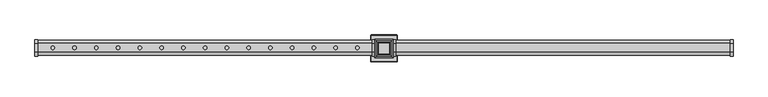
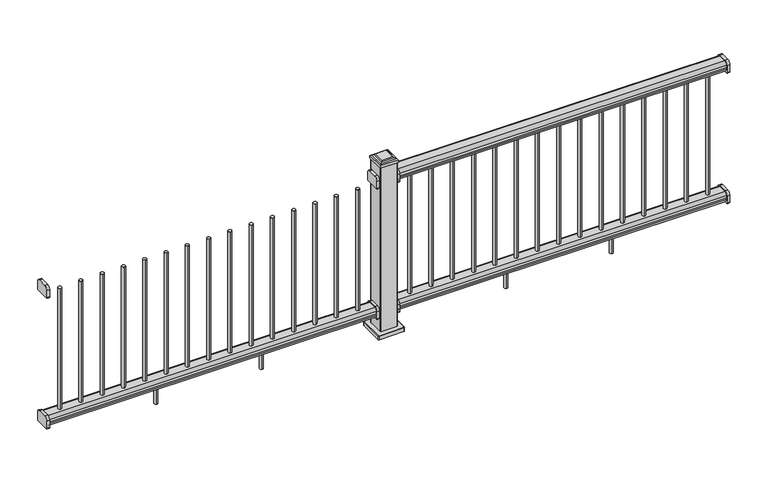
"""IFC4 building model written with IfcOpenShell, lengths in millimetres: railing geometry, NewTechWood - Westminister Gray."""

from ifc_helpers import new_model, si_unit, point, frame, frame_2d, origin, place, context, project, spatial, polyline, circle_curve, ellipse_curve, trimmed, segment, composite_curve, outline, extrude, faceted_brep, source, transform, mapped, element, save
from ifc_brep_helpers import plane_surface, cylinder_surface, revolved_surface, advanced_brep


def railing_2c4e6d6a(model_context):
    return source(origin(), model_context, "Body", "SolidModel", [
        extrude(outline(composite_curve([segment(polyline([(11496.7392028, 160.1), (11546.1692028, 160.1)]), True, "CONTINUOUS"), segment(trimmed(circle_curve(frame_2d((11546.1692028, 140.42)), 19.68), [point((11546.1692028, 160.1))], [point((11565.8492028, 140.42))], False, "CARTESIAN"), True, "CONTINUOUS"), segment(polyline([(11565.8492028, 140.42), (11565.8492028, 98.95)]), True, "CONTINUOUS"), segment(trimmed(circle_curve(frame_2d((11562.2992028, 98.95)), 3.55), [point((11565.8492028, 98.95))], [point((11562.2992028, 95.4))], False, "CARTESIAN"), True, "CONTINUOUS"), segment(polyline([(11562.2992028, 95.4), (11480.6092028, 95.4)]), True, "CONTINUOUS"), segment(trimmed(circle_curve(frame_2d((11480.6092028, 98.95)), 3.55), [point((11480.6092028, 95.4))], [point((11477.0592028, 98.95))], False, "CARTESIAN"), True, "CONTINUOUS"), segment(polyline([(11477.0592028, 98.95), (11477.0592028, 140.42)]), True, "CONTINUOUS"), segment(trimmed(circle_curve(frame_2d((11496.7392028, 140.42)), 19.68), [point((11477.0592028, 140.42))], [point((11496.7392028, 160.1))], False, "CARTESIAN"), True, "CONTINUOUS")], self_intersect=False)), frame((2823.1458255, 0.0, 0.0), z_axis=(1.0, 0.0, 0.0), x_axis=(0.0, 1.0, 0.0)), (0.0, 0.0, 1.0), 15.0),
        extrude(outline(composite_curve([segment(polyline([(11496.7392028, 160.1), (11546.1692028, 160.1)]), True, "CONTINUOUS"), segment(trimmed(circle_curve(frame_2d((11546.1692028, 140.42)), 19.68), [point((11546.1692028, 160.1))], [point((11565.8492028, 140.42))], False, "CARTESIAN"), True, "CONTINUOUS"), segment(polyline([(11565.8492028, 140.42), (11565.8492028, 98.95)]), True, "CONTINUOUS"), segment(trimmed(circle_curve(frame_2d((11562.2992028, 98.95)), 3.55), [point((11565.8492028, 98.95))], [point((11562.2992028, 95.4))], False, "CARTESIAN"), True, "CONTINUOUS"), segment(polyline([(11562.2992028, 95.4), (11480.6092028, 95.4)]), True, "CONTINUOUS"), segment(trimmed(circle_curve(frame_2d((11480.6092028, 98.95)), 3.55), [point((11480.6092028, 95.4))], [point((11477.0592028, 98.95))], False, "CARTESIAN"), True, "CONTINUOUS"), segment(polyline([(11477.0592028, 98.95), (11477.0592028, 140.42)]), True, "CONTINUOUS"), segment(trimmed(circle_curve(frame_2d((11496.7392028, 140.42)), 19.68), [point((11477.0592028, 140.42))], [point((11496.7392028, 160.1))], False, "CARTESIAN"), True, "CONTINUOUS")], self_intersect=False)), frame((4637.1458255, 0.0, 0.0), z_axis=(1.0, 0.0, 0.0), x_axis=(0.0, 1.0, 0.0)), (0.0, 0.0, 1.0), 15.0),
        extrude(outline(composite_curve([segment(trimmed(circle_curve(frame_2d((11546.1692028, 899.42)), 19.68), [point((11546.1692028, 919.1))], [point((11565.8492028, 899.42))], False, "CARTESIAN"), True, "CONTINUOUS"), segment(polyline([(11565.8492028, 899.42), (11565.8492028, 857.95)]), True, "CONTINUOUS"), segment(trimmed(circle_curve(frame_2d((11562.2992028, 857.95)), 3.55), [point((11565.8492028, 857.95))], [point((11562.2992028, 854.4))], False, "CARTESIAN"), True, "CONTINUOUS"), segment(polyline([(11562.2992028, 854.4), (11480.6092028, 854.4)]), True, "CONTINUOUS"), segment(trimmed(circle_curve(frame_2d((11480.6092028, 857.95)), 3.55), [point((11480.6092028, 854.4))], [point((11477.0592028, 857.95))], False, "CARTESIAN"), True, "CONTINUOUS"), segment(polyline([(11477.0592028, 857.95), (11477.0592028, 899.42)]), True, "CONTINUOUS"), segment(trimmed(circle_curve(frame_2d((11496.7392028, 899.42)), 19.68), [point((11477.0592028, 899.42))], [point((11496.7392028, 919.1))], False, "CARTESIAN"), True, "CONTINUOUS"), segment(polyline([(11496.7392028, 919.1), (11546.1692028, 919.1)]), True, "CONTINUOUS")], self_intersect=False)), frame((2823.1458255, 0.0, 0.0), z_axis=(1.0, 0.0, 0.0), x_axis=(0.0, 1.0, 0.0)), (0.0, 0.0, 1.0), 15.0),
        extrude(outline(composite_curve([segment(trimmed(circle_curve(frame_2d((11546.1692028, 899.42)), 19.68), [point((11546.1692028, 919.1))], [point((11565.8492028, 899.42))], False, "CARTESIAN"), True, "CONTINUOUS"), segment(polyline([(11565.8492028, 899.42), (11565.8492028, 857.95)]), True, "CONTINUOUS"), segment(trimmed(circle_curve(frame_2d((11562.2992028, 857.95)), 3.55), [point((11565.8492028, 857.95))], [point((11562.2992028, 854.4))], False, "CARTESIAN"), True, "CONTINUOUS"), segment(polyline([(11562.2992028, 854.4), (11480.6092028, 854.4)]), True, "CONTINUOUS"), segment(trimmed(circle_curve(frame_2d((11480.6092028, 857.95)), 3.55), [point((11480.6092028, 854.4))], [point((11477.0592028, 857.95))], False, "CARTESIAN"), True, "CONTINUOUS"), segment(polyline([(11477.0592028, 857.95), (11477.0592028, 899.42)]), True, "CONTINUOUS"), segment(trimmed(circle_curve(frame_2d((11496.7392028, 899.42)), 19.68), [point((11477.0592028, 899.42))], [point((11496.7392028, 919.1))], False, "CARTESIAN"), True, "CONTINUOUS"), segment(polyline([(11496.7392028, 919.1), (11546.1692028, 919.1)]), True, "CONTINUOUS")], self_intersect=False)), frame((4637.1458255, 0.0, 0.0), z_axis=(1.0, 0.0, 0.0), x_axis=(0.0, 1.0, 0.0)), (0.0, 0.0, 1.0), 15.0),
        advanced_brep(
        [(3448.145858, 11511.9542028, 127.5), (3448.145858, 11530.9542028, 127.5), (3438.645858, 11521.4542028, 127.5), (3448.145858, 11511.9542028, -0.0239603), (3448.145858, 11530.9542028, -0.0239603), (3438.645858, 11521.4542028, -0.0239603)],
        [
            (0, 1, circle_curve(frame((3448.145858, 11521.4542028, 127.5), z_axis=(0.0, 0.0, 1.0), x_axis=(0.0, 1.0, 0.0)), 9.5)),
            (1, 2, circle_curve(frame((3448.145858, 11521.4542028, 127.5), z_axis=(0.0, 0.0, 1.0), x_axis=(0.0, 1.0, 0.0)), 9.5)),
            (2, 0, circle_curve(frame((3448.145858, 11521.4542028, 127.5), z_axis=(0.0, 0.0, 1.0), x_axis=(0.0, 1.0, 0.0)), 9.5)),
            (0, 3),
            (3, 4, circle_curve(frame((3448.145858, 11521.4542028, -0.0239603), z_axis=(0.0, 0.0, 1.0), x_axis=(0.0, 1.0, 0.0)), 9.5)),
            (4, 1),
            (4, 5, circle_curve(frame((3448.145858, 11521.4542028, -0.0239603), z_axis=(0.0, 0.0, 1.0), x_axis=(0.0, 1.0, 0.0)), 9.5)),
            (5, 3, circle_curve(frame((3448.145858, 11521.4542028, -0.0239603), z_axis=(0.0, 0.0, 1.0), x_axis=(0.0, 1.0, 0.0)), 9.5)),
        ],
        [
            plane_surface(frame((4036.6457931, 11671.4542028, 127.5), z_axis=(0.0, 0.0, 1.0), x_axis=(0.0, -1.0, 0.0))),
            cylinder_surface(frame((3448.145858, 11521.4542028, -0.3192207), z_axis=(0.0, 0.0, 1.0), x_axis=(0.0, 1.0, 0.0)), 9.5),
            plane_surface(frame((3438.645858, 11671.4542028, -0.0239603), z_axis=(0.0, 0.0, -1.0), x_axis=(0.0, -1.0, 0.0))),
        ],
        [
            (0, [[1, 2, 3]]),
            (1, [[4, 5, 6, -1]]),
            (1, [[-4, -3, -2, -6, 7, 8]]),
            (2, [[-5, -8, -7]]),
        ],
    ),
        advanced_brep(
        [(4027.1457931, 11511.9542028, 127.5), (4036.6457931, 11521.4542028, 127.5), (4027.1457931, 11530.9542028, 127.5), (4027.1457931, 11511.9542028, -0.0102232), (4036.6457931, 11521.4542028, -0.0102232), (4027.1457931, 11530.9542028, -0.0102232)],
        [
            (0, 1, circle_curve(frame((4027.1457931, 11521.4542028, 127.5), z_axis=(0.0, 0.0, 1.0), x_axis=(0.0, 1.0, 0.0)), 9.5)),
            (1, 2, circle_curve(frame((4027.1457931, 11521.4542028, 127.5), z_axis=(0.0, 0.0, 1.0), x_axis=(0.0, 1.0, 0.0)), 9.5)),
            (2, 0, circle_curve(frame((4027.1457931, 11521.4542028, 127.5), z_axis=(0.0, 0.0, 1.0), x_axis=(0.0, 1.0, 0.0)), 9.5)),
            (0, 3),
            (3, 4, circle_curve(frame((4027.1457931, 11521.4542028, -0.0102232), z_axis=(0.0, 0.0, 1.0), x_axis=(0.0, 1.0, 0.0)), 9.5)),
            (4, 5, circle_curve(frame((4027.1457931, 11521.4542028, -0.0102232), z_axis=(0.0, 0.0, 1.0), x_axis=(0.0, 1.0, 0.0)), 9.5)),
            (5, 2),
            (5, 3, circle_curve(frame((4027.1457931, 11521.4542028, -0.0102232), z_axis=(0.0, 0.0, 1.0), x_axis=(0.0, 1.0, 0.0)), 9.5)),
        ],
        [
            plane_surface(frame((4036.6457931, 11671.4542028, 127.5), z_axis=(0.0, 0.0, 1.0), x_axis=(0.0, -1.0, 0.0))),
            cylinder_surface(frame((4027.1457931, 11521.4542028, 0.0), z_axis=(0.0, 0.0, 1.0), x_axis=(0.0, 1.0, 0.0)), 9.5),
            plane_surface(frame((4017.1457931, 11671.4542028, -0.0102232), z_axis=(0.0, 0.0, -1.0), x_axis=(0.0, -1.0, 0.0))),
        ],
        [
            (0, [[1, 2, 3]]),
            (1, [[4, 5, 6, 7, -2, -1]]),
            (1, [[-4, -3, -7, 8]]),
            (2, [[-5, -8, -6]]),
        ],
    ),
        extrude(outline(composite_curve([segment(trimmed(circle_curve(frame_2d((3386.9029684, 11521.4542028)), 9.6), [point((3386.9029684, 11531.0542028))], [point((3386.9029684, 11511.8542028))], False, "CARTESIAN"), True, "CONTINUOUS"), segment(trimmed(circle_curve(frame_2d((3386.9029684, 11521.4542028)), 9.6), [point((3386.9029684, 11511.8542028))], [point((3386.9029684, 11531.0542028))], False, "CARTESIAN"), True, "CONTINUOUS")], self_intersect=False)), frame((0.0, 0.0, 155.0), z_axis=(0.0, 0.0, 1.0), x_axis=(1.0, 0.0, 0.0)), (0.0, 0.0, 1.0), 704.1),
        extrude(outline(composite_curve([segment(trimmed(circle_curve(frame_2d((3503.8172541, 11521.4542028)), 9.6), [point((3503.8172541, 11531.0542028))], [point((3503.8172541, 11511.8542028))], False, "CARTESIAN"), True, "CONTINUOUS"), segment(trimmed(circle_curve(frame_2d((3503.8172541, 11521.4542028)), 9.6), [point((3503.8172541, 11511.8542028))], [point((3503.8172541, 11531.0542028))], False, "CARTESIAN"), True, "CONTINUOUS")], self_intersect=False)), frame((0.0, 0.0, 155.0), z_axis=(0.0, 0.0, 1.0), x_axis=(1.0, 0.0, 0.0)), (0.0, 0.0, 1.0), 704.1),
        extrude(outline(composite_curve([segment(trimmed(circle_curve(frame_2d((3620.7315398, 11521.4542028)), 9.6), [point((3620.7315398, 11531.0542028))], [point((3620.7315398, 11511.8542028))], False, "CARTESIAN"), True, "CONTINUOUS"), segment(trimmed(circle_curve(frame_2d((3620.7315398, 11521.4542028)), 9.6), [point((3620.7315398, 11511.8542028))], [point((3620.7315398, 11531.0542028))], False, "CARTESIAN"), True, "CONTINUOUS")], self_intersect=False)), frame((0.0, 0.0, 155.0), z_axis=(0.0, 0.0, 1.0), x_axis=(1.0, 0.0, 0.0)), (0.0, 0.0, 1.0), 704.1),
        extrude(outline(composite_curve([segment(trimmed(circle_curve(frame_2d((3737.6458255, 11521.4542028)), 9.6), [point((3737.6458255, 11531.0542028))], [point((3737.6458255, 11511.8542028))], False, "CARTESIAN"), True, "CONTINUOUS"), segment(trimmed(circle_curve(frame_2d((3737.6458255, 11521.4542028)), 9.6), [point((3737.6458255, 11511.8542028))], [point((3737.6458255, 11531.0542028))], False, "CARTESIAN"), True, "CONTINUOUS")], self_intersect=False)), frame((0.0, 0.0, 155.0), z_axis=(0.0, 0.0, 1.0), x_axis=(1.0, 0.0, 0.0)), (0.0, 0.0, 1.0), 704.1),
        extrude(outline(composite_curve([segment(trimmed(circle_curve(frame_2d((3854.5601112, 11521.4542028)), 9.6), [point((3854.5601112, 11531.0542028))], [point((3854.5601112, 11511.8542028))], False, "CARTESIAN"), True, "CONTINUOUS"), segment(trimmed(circle_curve(frame_2d((3854.5601112, 11521.4542028)), 9.6), [point((3854.5601112, 11511.8542028))], [point((3854.5601112, 11531.0542028))], False, "CARTESIAN"), True, "CONTINUOUS")], self_intersect=False)), frame((0.0, 0.0, 155.0), z_axis=(0.0, 0.0, 1.0), x_axis=(1.0, 0.0, 0.0)), (0.0, 0.0, 1.0), 704.1),
        extrude(outline(composite_curve([segment(trimmed(circle_curve(frame_2d((3971.4743969, 11521.4542028)), 9.6), [point((3971.4743969, 11531.0542028))], [point((3971.4743969, 11511.8542028))], False, "CARTESIAN"), True, "CONTINUOUS"), segment(trimmed(circle_curve(frame_2d((3971.4743969, 11521.4542028)), 9.6), [point((3971.4743969, 11511.8542028))], [point((3971.4743969, 11531.0542028))], False, "CARTESIAN"), True, "CONTINUOUS")], self_intersect=False)), frame((0.0, 0.0, 155.0), z_axis=(0.0, 0.0, 1.0), x_axis=(1.0, 0.0, 0.0)), (0.0, 0.0, 1.0), 704.1),
        extrude(outline(composite_curve([segment(trimmed(circle_curve(frame_2d((4088.3886827, 11521.4542028)), 9.6), [point((4088.3886827, 11531.0542028))], [point((4088.3886827, 11511.8542028))], False, "CARTESIAN"), True, "CONTINUOUS"), segment(trimmed(circle_curve(frame_2d((4088.3886827, 11521.4542028)), 9.6), [point((4088.3886827, 11511.8542028))], [point((4088.3886827, 11531.0542028))], False, "CARTESIAN"), True, "CONTINUOUS")], self_intersect=False)), frame((0.0, 0.0, 155.0), z_axis=(0.0, 0.0, 1.0), x_axis=(1.0, 0.0, 0.0)), (0.0, 0.0, 1.0), 704.1),
        extrude(outline(composite_curve([segment(trimmed(circle_curve(frame_2d((2919.2458255, 11521.4542028)), 9.6), [point((2919.2458255, 11531.0542028))], [point((2919.2458255, 11511.8542028))], False, "CARTESIAN"), True, "CONTINUOUS"), segment(trimmed(circle_curve(frame_2d((2919.2458255, 11521.4542028)), 9.6), [point((2919.2458255, 11511.8542028))], [point((2919.2458255, 11531.0542028))], False, "CARTESIAN"), True, "CONTINUOUS")], self_intersect=False)), frame((0.0, 0.0, 155.0), z_axis=(0.0, 0.0, 1.0), x_axis=(1.0, 0.0, 0.0)), (0.0, 0.0, 1.0), 704.1),
        extrude(outline(composite_curve([segment(trimmed(circle_curve(frame_2d((3036.1601112, 11521.4542028)), 9.6), [point((3036.1601112, 11531.0542028))], [point((3036.1601112, 11511.8542028))], False, "CARTESIAN"), True, "CONTINUOUS"), segment(trimmed(circle_curve(frame_2d((3036.1601112, 11521.4542028)), 9.6), [point((3036.1601112, 11511.8542028))], [point((3036.1601112, 11531.0542028))], False, "CARTESIAN"), True, "CONTINUOUS")], self_intersect=False)), frame((0.0, 0.0, 155.0), z_axis=(0.0, 0.0, 1.0), x_axis=(1.0, 0.0, 0.0)), (0.0, 0.0, 1.0), 704.1),
        extrude(outline(composite_curve([segment(trimmed(circle_curve(frame_2d((3153.0743969, 11521.4542028)), 9.6), [point((3153.0743969, 11531.0542028))], [point((3153.0743969, 11511.8542028))], False, "CARTESIAN"), True, "CONTINUOUS"), segment(trimmed(circle_curve(frame_2d((3153.0743969, 11521.4542028)), 9.6), [point((3153.0743969, 11511.8542028))], [point((3153.0743969, 11531.0542028))], False, "CARTESIAN"), True, "CONTINUOUS")], self_intersect=False)), frame((0.0, 0.0, 155.0), z_axis=(0.0, 0.0, 1.0), x_axis=(1.0, 0.0, 0.0)), (0.0, 0.0, 1.0), 704.1),
        extrude(outline(composite_curve([segment(trimmed(circle_curve(frame_2d((3269.9886827, 11521.4542028)), 9.6), [point((3269.9886827, 11531.0542028))], [point((3269.9886827, 11511.8542028))], False, "CARTESIAN"), True, "CONTINUOUS"), segment(trimmed(circle_curve(frame_2d((3269.9886827, 11521.4542028)), 9.6), [point((3269.9886827, 11511.8542028))], [point((3269.9886827, 11531.0542028))], False, "CARTESIAN"), True, "CONTINUOUS")], self_intersect=False)), frame((0.0, 0.0, 155.0), z_axis=(0.0, 0.0, 1.0), x_axis=(1.0, 0.0, 0.0)), (0.0, 0.0, 1.0), 704.1),
        extrude(outline(composite_curve([segment(trimmed(circle_curve(frame_2d((4205.3029684, 11521.4542028)), 9.6), [point((4205.3029684, 11531.0542028))], [point((4205.3029684, 11511.8542028))], False, "CARTESIAN"), True, "CONTINUOUS"), segment(trimmed(circle_curve(frame_2d((4205.3029684, 11521.4542028)), 9.6), [point((4205.3029684, 11511.8542028))], [point((4205.3029684, 11531.0542028))], False, "CARTESIAN"), True, "CONTINUOUS")], self_intersect=False)), frame((0.0, 0.0, 155.0), z_axis=(0.0, 0.0, 1.0), x_axis=(1.0, 0.0, 0.0)), (0.0, 0.0, 1.0), 704.1),
        extrude(outline(composite_curve([segment(trimmed(circle_curve(frame_2d((4322.2172541, 11521.4542028)), 9.6), [point((4322.2172541, 11531.0542028))], [point((4322.2172541, 11511.8542028))], False, "CARTESIAN"), True, "CONTINUOUS"), segment(trimmed(circle_curve(frame_2d((4322.2172541, 11521.4542028)), 9.6), [point((4322.2172541, 11511.8542028))], [point((4322.2172541, 11531.0542028))], False, "CARTESIAN"), True, "CONTINUOUS")], self_intersect=False)), frame((0.0, 0.0, 155.0), z_axis=(0.0, 0.0, 1.0), x_axis=(1.0, 0.0, 0.0)), (0.0, 0.0, 1.0), 704.1),
        extrude(outline(composite_curve([segment(trimmed(circle_curve(frame_2d((4439.1315398, 11521.4542028)), 9.6), [point((4439.1315398, 11531.0542028))], [point((4439.1315398, 11511.8542028))], False, "CARTESIAN"), True, "CONTINUOUS"), segment(trimmed(circle_curve(frame_2d((4439.1315398, 11521.4542028)), 9.6), [point((4439.1315398, 11511.8542028))], [point((4439.1315398, 11531.0542028))], False, "CARTESIAN"), True, "CONTINUOUS")], self_intersect=False)), frame((0.0, 0.0, 155.0), z_axis=(0.0, 0.0, 1.0), x_axis=(1.0, 0.0, 0.0)), (0.0, 0.0, 1.0), 704.1),
        extrude(outline(composite_curve([segment(trimmed(circle_curve(frame_2d((4556.0458255, 11521.4542028)), 9.6), [point((4556.0458255, 11531.0542028))], [point((4556.0458255, 11511.8542028))], False, "CARTESIAN"), True, "CONTINUOUS"), segment(trimmed(circle_curve(frame_2d((4556.0458255, 11521.4542028)), 9.6), [point((4556.0458255, 11511.8542028))], [point((4556.0458255, 11531.0542028))], False, "CARTESIAN"), True, "CONTINUOUS")], self_intersect=False)), frame((0.0, 0.0, 155.0), z_axis=(0.0, 0.0, 1.0), x_axis=(1.0, 0.0, 0.0)), (0.0, 0.0, 1.0), 704.1),
        extrude(outline(composite_curve([segment(polyline([(11543.636591, 100.0161325), (11499.2718146, 100.0161325)]), True, "CONTINUOUS"), segment(trimmed(circle_curve(frame_2d((11499.2718146, 116.7552917)), 16.7391591), [point((11499.2718146, 100.0161325))], [point((11482.5326554, 116.7552917))], False, "CARTESIAN"), True, "CONTINUOUS"), segment(polyline([(11482.5326554, 116.7552917), (11482.5326554, 126.3278473)]), True, "CONTINUOUS"), segment(trimmed(circle_curve(frame_2d((11469.6196989, 132.6660673)), 14.3846265), [point((11482.5326554, 126.3278473))], [point((11482.0441367, 139.9152621))], True, "CARTESIAN"), True, "CONTINUOUS"), segment(trimmed(circle_curve(frame_2d((11497.612742, 139.9152621)), 15.5686053), [point((11482.0441367, 139.9152621))], [point((11497.612742, 155.4838675))], False, "CARTESIAN"), True, "CONTINUOUS"), segment(polyline([(11497.612742, 155.4838675), (11545.2956636, 155.4838675)]), True, "CONTINUOUS"), segment(trimmed(circle_curve(frame_2d((11545.2956636, 139.9152621)), 15.5686053), [point((11545.2956636, 155.4838675))], [point((11560.8642689, 139.9152621))], False, "CARTESIAN"), True, "CONTINUOUS"), segment(trimmed(circle_curve(frame_2d((11573.2887067, 132.6660673)), 14.3846265), [point((11560.8642689, 139.9152621))], [point((11560.3757501, 126.3278473))], True, "CARTESIAN"), True, "CONTINUOUS"), segment(polyline([(11560.3757501, 126.3278473), (11560.3757501, 116.7552917)]), True, "CONTINUOUS"), segment(trimmed(circle_curve(frame_2d((11543.636591, 116.7552917)), 16.7391591), [point((11560.3757501, 116.7552917))], [point((11543.636591, 100.0161325))], False, "CARTESIAN"), True, "CONTINUOUS")], self_intersect=False)), frame((2838.1458255, 0.0, 0.0), z_axis=(1.0, 0.0, 0.0), x_axis=(0.0, 1.0, 0.0)), (0.0, 0.0, 1.0), 1799.0),
        extrude(outline(composite_curve([segment(polyline([(11543.636591, 859.0161325), (11499.2718146, 859.0161325)]), True, "CONTINUOUS"), segment(trimmed(circle_curve(frame_2d((11499.2718146, 875.7552917)), 16.7391591), [point((11499.2718146, 859.0161325))], [point((11482.5326554, 875.7552917))], False, "CARTESIAN"), True, "CONTINUOUS"), segment(polyline([(11482.5326554, 875.7552917), (11482.5326554, 885.3278473)]), True, "CONTINUOUS"), segment(trimmed(circle_curve(frame_2d((11469.6196989, 891.6660673)), 14.3846265), [point((11482.5326554, 885.3278473))], [point((11482.0441367, 898.9152621))], True, "CARTESIAN"), True, "CONTINUOUS"), segment(trimmed(circle_curve(frame_2d((11497.612742, 898.9152621)), 15.5686053), [point((11482.0441367, 898.9152621))], [point((11497.612742, 914.4838675))], False, "CARTESIAN"), True, "CONTINUOUS"), segment(polyline([(11497.612742, 914.4838675), (11545.2956636, 914.4838675)]), True, "CONTINUOUS"), segment(trimmed(circle_curve(frame_2d((11545.2956636, 898.9152621)), 15.5686053), [point((11545.2956636, 914.4838675))], [point((11560.8642689, 898.9152621))], False, "CARTESIAN"), True, "CONTINUOUS"), segment(trimmed(circle_curve(frame_2d((11573.2887067, 891.6660673)), 14.3846265), [point((11560.8642689, 898.9152621))], [point((11560.3757501, 885.3278473))], True, "CARTESIAN"), True, "CONTINUOUS"), segment(polyline([(11560.3757501, 885.3278473), (11560.3757501, 875.7552917)]), True, "CONTINUOUS"), segment(trimmed(circle_curve(frame_2d((11543.636591, 875.7552917)), 16.7391591), [point((11560.3757501, 875.7552917))], [point((11543.636591, 859.0161325))], False, "CARTESIAN"), True, "CONTINUOUS")], self_intersect=False)), frame((2838.1458255, 0.0, 0.0), z_axis=(1.0, 0.0, 0.0), x_axis=(0.0, 1.0, 0.0)), (0.0, 0.0, 1.0), 1799.0),
        advanced_brep(
        [(2843.2584818, 11447.5944784, 22.5), (2846.4180491, 11450.7540458, 22.5), (2846.4180491, 11585.4340458, 22.5), (2843.2584818, 11588.5936132, 22.5), (2708.5784818, 11588.5936132, 22.5), (2705.4189144, 11585.4340458, 22.5), (2705.4189144, 11450.7540458, 22.5), (2708.5784818, 11447.5944784, 22.5), (2703.4184818, 11585.4340458, 0.0), (2708.5784818, 11590.5940458, 0.0), (2843.2584818, 11590.5940458, 0.0), (2848.4184818, 11585.4340458, 0.0), (2848.4184818, 11450.7540458, 0.0), (2843.2584818, 11445.5940458, 0.0), (2708.5784818, 11445.5940458, 0.0), (2703.4184818, 11450.7540458, 0.0), (2703.4184818, 11450.7540458, 20.4995674), (2703.4184818, 11585.4340458, 20.4995674), (2708.5784818, 11445.5940458, 20.499569), (2843.2584818, 11445.5940458, 20.499569), (2848.4184818, 11450.7540458, 20.4995691), (2848.4184818, 11585.4340458, 20.4995674), (2843.2584818, 11590.5940458, 20.4995692), (2708.5784818, 11590.5940458, 20.4995674)],
        [
            (0, 1, circle_curve(frame((2843.2584818, 11450.7540458, 22.5), z_axis=(0.0, 0.0, 1.0), x_axis=(0.0, -1.0, 0.0)), 3.1595674)),
            (1, 2),
            (2, 3, circle_curve(frame((2843.2584818, 11585.4340458, 22.5), z_axis=(0.0, 0.0, 1.0), x_axis=(1.0, 0.0, 0.0)), 3.1595674)),
            (3, 4),
            (4, 5, circle_curve(frame((2708.5784818, 11585.4340458, 22.5), z_axis=(0.0, 0.0, 1.0), x_axis=(0.0, 1.0, 0.0)), 3.1595674)),
            (5, 6),
            (6, 7, circle_curve(frame((2708.5784818, 11450.7540458, 22.5), z_axis=(0.0, 0.0, 1.0), x_axis=(-1.0, 0.0, 0.0)), 3.1595674)),
            (7, 0),
            (8, 9, circle_curve(frame((2708.5784818, 11585.4340458, 0.0), z_axis=(0.0, 0.0, -1.0), x_axis=(0.0, 1.0, 0.0)), 5.16)),
            (9, 10),
            (10, 11, circle_curve(frame((2843.2584818, 11585.4340458, 0.0), z_axis=(0.0, 0.0, -1.0), x_axis=(0.0, 1.0, 0.0)), 5.16)),
            (11, 12),
            (12, 13, circle_curve(frame((2843.2584818, 11450.7540458, 0.0), z_axis=(0.0, 0.0, -1.0), x_axis=(0.0, 1.0, 0.0)), 5.16)),
            (13, 14),
            (14, 15, circle_curve(frame((2708.5784818, 11450.7540458, 0.0), z_axis=(0.0, 0.0, -1.0), x_axis=(0.0, 1.0, 0.0)), 5.16)),
            (15, 8),
            (15, 16),
            (16, 17),
            (17, 8),
            (14, 18),
            (18, 16, circle_curve(frame((2708.5784818, 11450.7540458, 20.4995674), z_axis=(0.0, 0.0, -1.0), x_axis=(0.0, 1.0, 0.0)), 5.16)),
            (13, 19),
            (19, 18),
            (12, 20),
            (20, 19, circle_curve(frame((2843.2584818, 11450.7540458, 20.4995674), z_axis=(0.0, 0.0, -1.0), x_axis=(0.0, 1.0, 0.0)), 5.16)),
            (11, 21),
            (21, 20),
            (10, 22),
            (22, 21, circle_curve(frame((2843.2584818, 11585.4340458, 20.4995674), z_axis=(0.0, 0.0, -1.0), x_axis=(0.0, 1.0, 0.0)), 5.16)),
            (9, 23),
            (23, 22),
            (17, 23, circle_curve(frame((2708.5784818, 11585.4340458, 20.4995674), z_axis=(0.0, 0.0, -1.0), x_axis=(0.0, 1.0, 0.0)), 5.16)),
            (20, 1, circle_curve(frame((2846.4180491, 11450.7540458, 20.4995674), z_axis=(0.0, -1.0, 0.0), x_axis=(-1.0, 0.0, 0.0)), 2.0004326)),
            (0, 19, circle_curve(frame((2843.2584818, 11447.5944784, 20.4995674), z_axis=(1.0, 0.0, 0.0), x_axis=(0.0, 1.0, 0.0)), 2.0004326)),
            (21, 2, circle_curve(frame((2846.4180491, 11585.4340458, 20.4995674), z_axis=(0.0, -1.0, 0.0), x_axis=(-1.0, 0.0, 0.0)), 2.0004326)),
            (22, 3, circle_curve(frame((2843.2584818, 11588.5936132, 20.4995674), z_axis=(1.0, 0.0, 0.0), x_axis=(0.0, -1.0, 0.0)), 2.0004326)),
            (23, 4, circle_curve(frame((2708.5784818, 11588.5936132, 20.4995674), z_axis=(1.0, 0.0, 0.0), x_axis=(0.0, -1.0, 0.0)), 2.0004326)),
            (17, 5, circle_curve(frame((2705.4189144, 11585.4340458, 20.4995674), z_axis=(0.0, 1.0, 0.0), x_axis=(1.0, 0.0, 0.0)), 2.0004326)),
            (16, 6, circle_curve(frame((2705.4189144, 11450.7540458, 20.4995674), z_axis=(0.0, 1.0, 0.0), x_axis=(1.0, 0.0, 0.0)), 2.0004326)),
            (18, 7, circle_curve(frame((2708.5784818, 11447.5944784, 20.4995674), z_axis=(-1.0, 0.0, 0.0), x_axis=(0.0, 1.0, 0.0)), 2.0004326)),
        ],
        [
            plane_surface(frame((2703.4184818, 11558.658052, 22.5), z_axis=(0.0, 0.0, 1.0), x_axis=(0.0, -1.0, 0.0))),
            plane_surface(frame((2703.4184818, 11558.658052, 0.0), z_axis=(0.0, 0.0, -1.0), x_axis=(0.0, 1.0, 0.0))),
            plane_surface(frame((2703.4184818, 11585.4340458, 22.5), z_axis=(-1.0, 0.0, 0.0), x_axis=(0.0, 0.0, -1.0))),
            cylinder_surface(frame((2708.5784818, 11450.7540458, 0.0), z_axis=(0.0, 0.0, 1.0), x_axis=(0.0, 1.0, 0.0)), 5.16),
            plane_surface(frame((2708.5784818, 11445.5940458, 22.5), z_axis=(0.0, -1.0, 0.0), x_axis=(0.0, 0.0, -1.0))),
            cylinder_surface(frame((2843.2584818, 11450.7540458, 0.0), z_axis=(0.0, 0.0, 1.0), x_axis=(0.0, 1.0, 0.0)), 5.16),
            plane_surface(frame((2848.4184818, 11450.7540458, 22.5), z_axis=(1.0, 0.0, 0.0), x_axis=(0.0, 0.0, -1.0))),
            cylinder_surface(frame((2843.2584818, 11585.4340458, 0.0), z_axis=(0.0, 0.0, 1.0), x_axis=(0.0, 1.0, 0.0)), 5.16),
            plane_surface(frame((2843.2584818, 11590.5940458, 22.5), z_axis=(0.0, 1.0, 0.0), x_axis=(0.0, 0.0, -1.0))),
            cylinder_surface(frame((2708.5784818, 11585.4340458, 0.0), z_axis=(0.0, 0.0, 1.0), x_axis=(0.0, 1.0, 0.0)), 5.16),
            revolved_surface(trimmed(ellipse_curve(frame((2843.2584818, 11447.5944784, 20.4995674), z_axis=(-1.0, 0.0, 0.0), x_axis=(0.0, 1.0, 0.0)), 2.0004326, 2.0004326), [point((2843.2584818, 11445.5940458, 20.4995674))], [point((2843.2584818, 11447.5944784, 22.5))], True, "CARTESIAN"), (2843.2584818, 11450.7540458, 22.5), (0.0, 0.0, 1.0)),
            cylinder_surface(frame((2846.4180491, 11450.7540458, 20.4995674), z_axis=(0.0, 1.0, 0.0), x_axis=(-1.0, 0.0, 0.0)), 2.0004326),
            revolved_surface(trimmed(ellipse_curve(frame((2846.4180491, 11585.4340458, 20.4995674), z_axis=(0.0, -1.0, 0.0), x_axis=(-1.0, 0.0, 0.0)), 2.0004326, 2.0004326), [point((2848.4184818, 11585.4340458, 20.4995674))], [point((2846.4180491, 11585.4340458, 22.5))], True, "CARTESIAN"), (2843.2584818, 11585.4340458, 22.5), (0.0, 0.0, 1.0)),
            cylinder_surface(frame((2843.2584818, 11588.5936132, 20.4995674), z_axis=(-1.0, 0.0, 0.0), x_axis=(0.0, -1.0, 0.0)), 2.0004326),
            revolved_surface(trimmed(ellipse_curve(frame((2708.5784818, 11588.5936132, 20.4995674), z_axis=(1.0, 0.0, 0.0), x_axis=(0.0, -1.0, 0.0)), 2.0004326, 2.0004326), [point((2708.5784818, 11590.5940458, 20.4995674))], [point((2708.5784818, 11588.5936132, 22.5))], True, "CARTESIAN"), (2708.5784818, 11585.4340458, 22.5), (0.0, 0.0, 1.0)),
            cylinder_surface(frame((2705.4189144, 11585.4340458, 20.4995674), z_axis=(0.0, -1.0, 0.0), x_axis=(1.0, 0.0, 0.0)), 2.0004326),
            revolved_surface(trimmed(ellipse_curve(frame((2705.4189144, 11450.7540458, 20.4995674), z_axis=(0.0, 1.0, 0.0), x_axis=(1.0, 0.0, 0.0)), 2.0004326, 2.0004326), [point((2703.4184818, 11450.7540458, 20.4995674))], [point((2705.4189144, 11450.7540458, 22.5))], True, "CARTESIAN"), (2708.5784818, 11450.7540458, 22.5), (0.0, 0.0, 1.0)),
            cylinder_surface(frame((2708.5784818, 11447.5944784, 20.4995674), z_axis=(1.0, 0.0, 0.0), x_axis=(0.0, 1.0, 0.0)), 2.0004326),
        ],
        [
            (0, [[1, 2, 3, 4, 5, 6, 7, 8]]),
            (1, [[9, 10, 11, 12, 13, 14, 15, 16]]),
            (2, [[-16, 17, 18, 19]]),
            (3, [[-15, 20, 21, -17]]),
            (4, [[-14, 22, 23, -20]]),
            (5, [[-13, 24, 25, -22]]),
            (6, [[-12, 26, 27, -24]]),
            (7, [[-11, 28, 29, -26]]),
            (8, [[-10, 30, 31, -28]]),
            (9, [[-9, -19, 32, -30]]),
            (10, [[33, -1, 34, -25]]),
            (11, [[-33, -27, 35, -2]]),
            (12, [[-35, -29, 36, -3]]),
            (13, [[-36, -31, 37, -4]]),
            (14, [[-37, -32, 38, -5]]),
            (15, [[-38, -18, 39, -6]]),
            (16, [[-39, -21, 40, -7]]),
            (17, [[-34, -8, -40, -23]]),
        ],
    ),
        faceted_brep([(2824.9684818, 11469.0440458, 990.769699), (2824.9684818, 11469.0440458, 976.139699), (2824.9684818, 11567.1440458, 976.139699), (2824.9684818, 11567.1440458, 990.769699), (2820.9358057, 11473.0767219, 996.0825536), (2820.9358057, 11563.1113697, 996.0825536), (2811.710698, 11482.3018295, 1000.5958992), (2811.710698, 11553.886262, 1000.5958992), (2807.2139306, 11486.7985969, 1004.4), (2807.2139306, 11549.3894946, 1004.4), (2726.8684818, 11567.1440458, 976.139699), (2726.8684818, 11567.1440458, 990.769699), (2730.9011579, 11563.1113697, 996.0825536), (2740.1262655, 11553.886262, 1000.5958992), (2744.6230329, 11549.3894946, 1004.4), (2726.8684818, 11469.0440458, 976.139699), (2726.8684818, 11469.0440458, 990.769699), (2730.9011579, 11473.0767219, 996.0825536), (2740.1262655, 11482.3018295, 1000.5958992), (2744.6230329, 11486.7985969, 1004.4)], [[[0, 1, 2, 3]], [[4, 0, 3, 5]], [[6, 4, 5, 7]], [[8, 6, 7, 9]], [[3, 2, 10, 11]], [[5, 3, 11, 12]], [[7, 5, 12, 13]], [[9, 7, 13, 14]], [[11, 10, 15, 16]], [[12, 11, 16, 17]], [[13, 12, 17, 18]], [[14, 13, 18, 19]], [[16, 15, 1, 0]], [[17, 16, 0, 4]], [[18, 17, 4, 6]], [[19, 18, 6, 8]], [[9, 14, 19, 8]], [[1, 15, 10, 2]]]),
        extrude(outline(composite_curve([segment(trimmed(circle_curve(frame_2d((2732.3284818, 11474.5040458)), 3.61), [point((2732.3284818, 11470.8940458))], [point((2728.7184818, 11474.5040458))], False, "CARTESIAN"), True, "CONTINUOUS"), segment(polyline([(2728.7184818, 11474.5040458), (2728.7184818, 11561.6840458)]), True, "CONTINUOUS"), segment(trimmed(circle_curve(frame_2d((2732.3284818, 11561.6840458)), 3.61), [point((2728.7184818, 11561.6840458))], [point((2732.3284818, 11565.2940458))], False, "CARTESIAN"), True, "CONTINUOUS"), segment(polyline([(2732.3284818, 11565.2940458), (2819.5084818, 11565.2940458)]), True, "CONTINUOUS"), segment(trimmed(circle_curve(frame_2d((2819.5084818, 11561.6840458)), 3.61), [point((2819.5084818, 11565.2940458))], [point((2823.1184818, 11561.6840458))], False, "CARTESIAN"), True, "CONTINUOUS"), segment(polyline([(2823.1184818, 11561.6840458), (2823.1184818, 11474.5040458)]), True, "CONTINUOUS"), segment(trimmed(circle_curve(frame_2d((2819.5084818, 11474.5040458)), 3.61), [point((2823.1184818, 11474.5040458))], [point((2819.5084818, 11470.8940458))], False, "CARTESIAN"), True, "CONTINUOUS"), segment(polyline([(2819.5084818, 11470.8940458), (2732.3284818, 11470.8940458)]), True, "CONTINUOUS")], self_intersect=False)), frame((0.0, 0.0, 22.5), z_axis=(0.0, 0.0, 1.0), x_axis=(1.0, 0.0, 0.0)), (0.0, 0.0, 1.0), 953.639699),
        extrude(outline(composite_curve([segment(polyline([(11496.7392028, 160.1), (11546.1692028, 160.1)]), True, "CONTINUOUS"), segment(trimmed(circle_curve(frame_2d((11546.1692028, 140.42)), 19.68), [point((11546.1692028, 160.1))], [point((11565.8492028, 140.42))], False, "CARTESIAN"), True, "CONTINUOUS"), segment(polyline([(11565.8492028, 140.42), (11565.8492028, 98.95)]), True, "CONTINUOUS"), segment(trimmed(circle_curve(frame_2d((11562.2992028, 98.95)), 3.55), [point((11565.8492028, 98.95))], [point((11562.2992028, 95.4))], False, "CARTESIAN"), True, "CONTINUOUS"), segment(polyline([(11562.2992028, 95.4), (11480.6092028, 95.4)]), True, "CONTINUOUS"), segment(trimmed(circle_curve(frame_2d((11480.6092028, 98.95)), 3.55), [point((11480.6092028, 95.4))], [point((11477.0592028, 98.95))], False, "CARTESIAN"), True, "CONTINUOUS"), segment(polyline([(11477.0592028, 98.95), (11477.0592028, 140.42)]), True, "CONTINUOUS"), segment(trimmed(circle_curve(frame_2d((11496.7392028, 140.42)), 19.68), [point((11477.0592028, 140.42))], [point((11496.7392028, 160.1))], False, "CARTESIAN"), True, "CONTINUOUS")], self_intersect=False)), frame((899.691138, 0.0, 0.0), z_axis=(1.0, 0.0, 0.0), x_axis=(0.0, 1.0, 0.0)), (0.0, 0.0, 1.0), 15.0),
        extrude(outline(composite_curve([segment(polyline([(11496.7392028, 160.1), (11546.1692028, 160.1)]), True, "CONTINUOUS"), segment(trimmed(circle_curve(frame_2d((11546.1692028, 140.42)), 19.68), [point((11546.1692028, 160.1))], [point((11565.8492028, 140.42))], False, "CARTESIAN"), True, "CONTINUOUS"), segment(polyline([(11565.8492028, 140.42), (11565.8492028, 98.95)]), True, "CONTINUOUS"), segment(trimmed(circle_curve(frame_2d((11562.2992028, 98.95)), 3.55), [point((11565.8492028, 98.95))], [point((11562.2992028, 95.4))], False, "CARTESIAN"), True, "CONTINUOUS"), segment(polyline([(11562.2992028, 95.4), (11480.6092028, 95.4)]), True, "CONTINUOUS"), segment(trimmed(circle_curve(frame_2d((11480.6092028, 98.95)), 3.55), [point((11480.6092028, 95.4))], [point((11477.0592028, 98.95))], False, "CARTESIAN"), True, "CONTINUOUS"), segment(polyline([(11477.0592028, 98.95), (11477.0592028, 140.42)]), True, "CONTINUOUS"), segment(trimmed(circle_curve(frame_2d((11496.7392028, 140.42)), 19.68), [point((11477.0592028, 140.42))], [point((11496.7392028, 160.1))], False, "CARTESIAN"), True, "CONTINUOUS")], self_intersect=False)), frame((2713.691138, 0.0, 0.0), z_axis=(1.0, 0.0, 0.0), x_axis=(0.0, 1.0, 0.0)), (0.0, 0.0, 1.0), 15.0),
        extrude(outline(composite_curve([segment(trimmed(circle_curve(frame_2d((11546.1692028, 899.42)), 19.68), [point((11546.1692028, 919.1))], [point((11565.8492028, 899.42))], False, "CARTESIAN"), True, "CONTINUOUS"), segment(polyline([(11565.8492028, 899.42), (11565.8492028, 857.95)]), True, "CONTINUOUS"), segment(trimmed(circle_curve(frame_2d((11562.2992028, 857.95)), 3.55), [point((11565.8492028, 857.95))], [point((11562.2992028, 854.4))], False, "CARTESIAN"), True, "CONTINUOUS"), segment(polyline([(11562.2992028, 854.4), (11480.6092028, 854.4)]), True, "CONTINUOUS"), segment(trimmed(circle_curve(frame_2d((11480.6092028, 857.95)), 3.55), [point((11480.6092028, 854.4))], [point((11477.0592028, 857.95))], False, "CARTESIAN"), True, "CONTINUOUS"), segment(polyline([(11477.0592028, 857.95), (11477.0592028, 899.42)]), True, "CONTINUOUS"), segment(trimmed(circle_curve(frame_2d((11496.7392028, 899.42)), 19.68), [point((11477.0592028, 899.42))], [point((11496.7392028, 919.1))], False, "CARTESIAN"), True, "CONTINUOUS"), segment(polyline([(11496.7392028, 919.1), (11546.1692028, 919.1)]), True, "CONTINUOUS")], self_intersect=False)), frame((899.691138, 0.0, 0.0), z_axis=(1.0, 0.0, 0.0), x_axis=(0.0, 1.0, 0.0)), (0.0, 0.0, 1.0), 15.0),
        extrude(outline(composite_curve([segment(trimmed(circle_curve(frame_2d((11546.1692028, 899.42)), 19.68), [point((11546.1692028, 919.1))], [point((11565.8492028, 899.42))], False, "CARTESIAN"), True, "CONTINUOUS"), segment(polyline([(11565.8492028, 899.42), (11565.8492028, 857.95)]), True, "CONTINUOUS"), segment(trimmed(circle_curve(frame_2d((11562.2992028, 857.95)), 3.55), [point((11565.8492028, 857.95))], [point((11562.2992028, 854.4))], False, "CARTESIAN"), True, "CONTINUOUS"), segment(polyline([(11562.2992028, 854.4), (11480.6092028, 854.4)]), True, "CONTINUOUS"), segment(trimmed(circle_curve(frame_2d((11480.6092028, 857.95)), 3.55), [point((11480.6092028, 854.4))], [point((11477.0592028, 857.95))], False, "CARTESIAN"), True, "CONTINUOUS"), segment(polyline([(11477.0592028, 857.95), (11477.0592028, 899.42)]), True, "CONTINUOUS"), segment(trimmed(circle_curve(frame_2d((11496.7392028, 899.42)), 19.68), [point((11477.0592028, 899.42))], [point((11496.7392028, 919.1))], False, "CARTESIAN"), True, "CONTINUOUS"), segment(polyline([(11496.7392028, 919.1), (11546.1692028, 919.1)]), True, "CONTINUOUS")], self_intersect=False)), frame((2713.691138, 0.0, 0.0), z_axis=(1.0, 0.0, 0.0), x_axis=(0.0, 1.0, 0.0)), (0.0, 0.0, 1.0), 15.0),
        advanced_brep(
        [(1524.6911705, 11511.9542028, 127.5), (1524.6911705, 11530.9542028, 127.5), (1515.1911705, 11521.4542028, 127.5), (1524.6911705, 11511.9542028, -0.0239603), (1524.6911705, 11530.9542028, -0.0239603), (1515.1911705, 11521.4542028, -0.0239603)],
        [
            (0, 1, circle_curve(frame((1524.6911705, 11521.4542028, 127.5), z_axis=(0.0, 0.0, 1.0), x_axis=(0.0, 1.0, 0.0)), 9.5)),
            (1, 2, circle_curve(frame((1524.6911705, 11521.4542028, 127.5), z_axis=(0.0, 0.0, 1.0), x_axis=(0.0, 1.0, 0.0)), 9.5)),
            (2, 0, circle_curve(frame((1524.6911705, 11521.4542028, 127.5), z_axis=(0.0, 0.0, 1.0), x_axis=(0.0, 1.0, 0.0)), 9.5)),
            (0, 3),
            (3, 4, circle_curve(frame((1524.6911705, 11521.4542028, -0.0239603), z_axis=(0.0, 0.0, 1.0), x_axis=(0.0, 1.0, 0.0)), 9.5)),
            (4, 1),
            (4, 5, circle_curve(frame((1524.6911705, 11521.4542028, -0.0239603), z_axis=(0.0, 0.0, 1.0), x_axis=(0.0, 1.0, 0.0)), 9.5)),
            (5, 3, circle_curve(frame((1524.6911705, 11521.4542028, -0.0239603), z_axis=(0.0, 0.0, 1.0), x_axis=(0.0, 1.0, 0.0)), 9.5)),
        ],
        [
            plane_surface(frame((2113.1911056, 11671.4542028, 127.5), z_axis=(0.0, 0.0, 1.0), x_axis=(0.0, -1.0, 0.0))),
            cylinder_surface(frame((1524.6911705, 11521.4542028, -0.3192207), z_axis=(0.0, 0.0, 1.0), x_axis=(0.0, 1.0, 0.0)), 9.5),
            plane_surface(frame((1515.1911705, 11671.4542028, -0.0239603), z_axis=(0.0, 0.0, -1.0), x_axis=(0.0, -1.0, 0.0))),
        ],
        [
            (0, [[1, 2, 3]]),
            (1, [[4, 5, 6, -1]]),
            (1, [[-4, -3, -2, -6, 7, 8]]),
            (2, [[-5, -8, -7]]),
        ],
    ),
        advanced_brep(
        [(2103.6911056, 11511.9542028, 127.5), (2113.1911056, 11521.4542028, 127.5), (2103.6911056, 11530.9542028, 127.5), (2103.6911056, 11511.9542028, -0.0102232), (2113.1911056, 11521.4542028, -0.0102232), (2103.6911056, 11530.9542028, -0.0102232)],
        [
            (0, 1, circle_curve(frame((2103.6911056, 11521.4542028, 127.5), z_axis=(0.0, 0.0, 1.0), x_axis=(0.0, 1.0, 0.0)), 9.5)),
            (1, 2, circle_curve(frame((2103.6911056, 11521.4542028, 127.5), z_axis=(0.0, 0.0, 1.0), x_axis=(0.0, 1.0, 0.0)), 9.5)),
            (2, 0, circle_curve(frame((2103.6911056, 11521.4542028, 127.5), z_axis=(0.0, 0.0, 1.0), x_axis=(0.0, 1.0, 0.0)), 9.5)),
            (0, 3),
            (3, 4, circle_curve(frame((2103.6911056, 11521.4542028, -0.0102232), z_axis=(0.0, 0.0, 1.0), x_axis=(0.0, 1.0, 0.0)), 9.5)),
            (4, 5, circle_curve(frame((2103.6911056, 11521.4542028, -0.0102232), z_axis=(0.0, 0.0, 1.0), x_axis=(0.0, 1.0, 0.0)), 9.5)),
            (5, 2),
            (5, 3, circle_curve(frame((2103.6911056, 11521.4542028, -0.0102232), z_axis=(0.0, 0.0, 1.0), x_axis=(0.0, 1.0, 0.0)), 9.5)),
        ],
        [
            plane_surface(frame((2113.1911056, 11671.4542028, 127.5), z_axis=(0.0, 0.0, 1.0), x_axis=(0.0, -1.0, 0.0))),
            cylinder_surface(frame((2103.6911056, 11521.4542028, 0.0), z_axis=(0.0, 0.0, 1.0), x_axis=(0.0, 1.0, 0.0)), 9.5),
            plane_surface(frame((2093.6911056, 11671.4542028, -0.0102232), z_axis=(0.0, 0.0, -1.0), x_axis=(0.0, -1.0, 0.0))),
        ],
        [
            (0, [[1, 2, 3]]),
            (1, [[4, 5, 6, 7, -2, -1]]),
            (1, [[-4, -3, -7, 8]]),
            (2, [[-5, -8, -6]]),
        ],
    ),
        extrude(outline(composite_curve([segment(trimmed(circle_curve(frame_2d((1463.4482809, 11521.4542028)), 9.6), [point((1463.4482809, 11531.0542028))], [point((1463.4482809, 11511.8542028))], False, "CARTESIAN"), True, "CONTINUOUS"), segment(trimmed(circle_curve(frame_2d((1463.4482809, 11521.4542028)), 9.6), [point((1463.4482809, 11511.8542028))], [point((1463.4482809, 11531.0542028))], False, "CARTESIAN"), True, "CONTINUOUS")], self_intersect=False)), frame((0.0, 0.0, 155.0), z_axis=(0.0, 0.0, 1.0), x_axis=(1.0, 0.0, 0.0)), (0.0, 0.0, 1.0), 704.1),
        extrude(outline(composite_curve([segment(trimmed(circle_curve(frame_2d((1580.3625666, 11521.4542028)), 9.6), [point((1580.3625666, 11531.0542028))], [point((1580.3625666, 11511.8542028))], False, "CARTESIAN"), True, "CONTINUOUS"), segment(trimmed(circle_curve(frame_2d((1580.3625666, 11521.4542028)), 9.6), [point((1580.3625666, 11511.8542028))], [point((1580.3625666, 11531.0542028))], False, "CARTESIAN"), True, "CONTINUOUS")], self_intersect=False)), frame((0.0, 0.0, 155.0), z_axis=(0.0, 0.0, 1.0), x_axis=(1.0, 0.0, 0.0)), (0.0, 0.0, 1.0), 704.1),
        extrude(outline(composite_curve([segment(trimmed(circle_curve(frame_2d((1697.2768523, 11521.4542028)), 9.6), [point((1697.2768523, 11531.0542028))], [point((1697.2768523, 11511.8542028))], False, "CARTESIAN"), True, "CONTINUOUS"), segment(trimmed(circle_curve(frame_2d((1697.2768523, 11521.4542028)), 9.6), [point((1697.2768523, 11511.8542028))], [point((1697.2768523, 11531.0542028))], False, "CARTESIAN"), True, "CONTINUOUS")], self_intersect=False)), frame((0.0, 0.0, 155.0), z_axis=(0.0, 0.0, 1.0), x_axis=(1.0, 0.0, 0.0)), (0.0, 0.0, 1.0), 704.1),
        extrude(outline(composite_curve([segment(trimmed(circle_curve(frame_2d((1814.191138, 11521.4542028)), 9.6), [point((1814.191138, 11531.0542028))], [point((1814.191138, 11511.8542028))], False, "CARTESIAN"), True, "CONTINUOUS"), segment(trimmed(circle_curve(frame_2d((1814.191138, 11521.4542028)), 9.6), [point((1814.191138, 11511.8542028))], [point((1814.191138, 11531.0542028))], False, "CARTESIAN"), True, "CONTINUOUS")], self_intersect=False)), frame((0.0, 0.0, 155.0), z_axis=(0.0, 0.0, 1.0), x_axis=(1.0, 0.0, 0.0)), (0.0, 0.0, 1.0), 704.1),
        extrude(outline(composite_curve([segment(trimmed(circle_curve(frame_2d((1931.1054237, 11521.4542028)), 9.6), [point((1931.1054237, 11531.0542028))], [point((1931.1054237, 11511.8542028))], False, "CARTESIAN"), True, "CONTINUOUS"), segment(trimmed(circle_curve(frame_2d((1931.1054237, 11521.4542028)), 9.6), [point((1931.1054237, 11511.8542028))], [point((1931.1054237, 11531.0542028))], False, "CARTESIAN"), True, "CONTINUOUS")], self_intersect=False)), frame((0.0, 0.0, 155.0), z_axis=(0.0, 0.0, 1.0), x_axis=(1.0, 0.0, 0.0)), (0.0, 0.0, 1.0), 704.1),
        extrude(outline(composite_curve([segment(trimmed(circle_curve(frame_2d((2048.0197094, 11521.4542028)), 9.6), [point((2048.0197094, 11531.0542028))], [point((2048.0197094, 11511.8542028))], False, "CARTESIAN"), True, "CONTINUOUS"), segment(trimmed(circle_curve(frame_2d((2048.0197094, 11521.4542028)), 9.6), [point((2048.0197094, 11511.8542028))], [point((2048.0197094, 11531.0542028))], False, "CARTESIAN"), True, "CONTINUOUS")], self_intersect=False)), frame((0.0, 0.0, 155.0), z_axis=(0.0, 0.0, 1.0), x_axis=(1.0, 0.0, 0.0)), (0.0, 0.0, 1.0), 704.1),
        extrude(outline(composite_curve([segment(trimmed(circle_curve(frame_2d((2164.9339952, 11521.4542028)), 9.6), [point((2164.9339952, 11531.0542028))], [point((2164.9339952, 11511.8542028))], False, "CARTESIAN"), True, "CONTINUOUS"), segment(trimmed(circle_curve(frame_2d((2164.9339952, 11521.4542028)), 9.6), [point((2164.9339952, 11511.8542028))], [point((2164.9339952, 11531.0542028))], False, "CARTESIAN"), True, "CONTINUOUS")], self_intersect=False)), frame((0.0, 0.0, 155.0), z_axis=(0.0, 0.0, 1.0), x_axis=(1.0, 0.0, 0.0)), (0.0, 0.0, 1.0), 704.1),
        extrude(outline(composite_curve([segment(trimmed(circle_curve(frame_2d((995.791138, 11521.4542028)), 9.6), [point((995.791138, 11531.0542028))], [point((995.791138, 11511.8542028))], False, "CARTESIAN"), True, "CONTINUOUS"), segment(trimmed(circle_curve(frame_2d((995.791138, 11521.4542028)), 9.6), [point((995.791138, 11511.8542028))], [point((995.791138, 11531.0542028))], False, "CARTESIAN"), True, "CONTINUOUS")], self_intersect=False)), frame((0.0, 0.0, 155.0), z_axis=(0.0, 0.0, 1.0), x_axis=(1.0, 0.0, 0.0)), (0.0, 0.0, 1.0), 704.1),
        extrude(outline(composite_curve([segment(trimmed(circle_curve(frame_2d((1112.7054237, 11521.4542028)), 9.6), [point((1112.7054237, 11531.0542028))], [point((1112.7054237, 11511.8542028))], False, "CARTESIAN"), True, "CONTINUOUS"), segment(trimmed(circle_curve(frame_2d((1112.7054237, 11521.4542028)), 9.6), [point((1112.7054237, 11511.8542028))], [point((1112.7054237, 11531.0542028))], False, "CARTESIAN"), True, "CONTINUOUS")], self_intersect=False)), frame((0.0, 0.0, 155.0), z_axis=(0.0, 0.0, 1.0), x_axis=(1.0, 0.0, 0.0)), (0.0, 0.0, 1.0), 704.1),
        extrude(outline(composite_curve([segment(trimmed(circle_curve(frame_2d((1229.6197094, 11521.4542028)), 9.6), [point((1229.6197094, 11531.0542028))], [point((1229.6197094, 11511.8542028))], False, "CARTESIAN"), True, "CONTINUOUS"), segment(trimmed(circle_curve(frame_2d((1229.6197094, 11521.4542028)), 9.6), [point((1229.6197094, 11511.8542028))], [point((1229.6197094, 11531.0542028))], False, "CARTESIAN"), True, "CONTINUOUS")], self_intersect=False)), frame((0.0, 0.0, 155.0), z_axis=(0.0, 0.0, 1.0), x_axis=(1.0, 0.0, 0.0)), (0.0, 0.0, 1.0), 704.1),
        extrude(outline(composite_curve([segment(trimmed(circle_curve(frame_2d((1346.5339952, 11521.4542028)), 9.6), [point((1346.5339952, 11531.0542028))], [point((1346.5339952, 11511.8542028))], False, "CARTESIAN"), True, "CONTINUOUS"), segment(trimmed(circle_curve(frame_2d((1346.5339952, 11521.4542028)), 9.6), [point((1346.5339952, 11511.8542028))], [point((1346.5339952, 11531.0542028))], False, "CARTESIAN"), True, "CONTINUOUS")], self_intersect=False)), frame((0.0, 0.0, 155.0), z_axis=(0.0, 0.0, 1.0), x_axis=(1.0, 0.0, 0.0)), (0.0, 0.0, 1.0), 704.1),
        extrude(outline(composite_curve([segment(trimmed(circle_curve(frame_2d((2281.8482809, 11521.4542028)), 9.6), [point((2281.8482809, 11531.0542028))], [point((2281.8482809, 11511.8542028))], False, "CARTESIAN"), True, "CONTINUOUS"), segment(trimmed(circle_curve(frame_2d((2281.8482809, 11521.4542028)), 9.6), [point((2281.8482809, 11511.8542028))], [point((2281.8482809, 11531.0542028))], False, "CARTESIAN"), True, "CONTINUOUS")], self_intersect=False)), frame((0.0, 0.0, 155.0), z_axis=(0.0, 0.0, 1.0), x_axis=(1.0, 0.0, 0.0)), (0.0, 0.0, 1.0), 704.1),
        extrude(outline(composite_curve([segment(trimmed(circle_curve(frame_2d((2398.7625666, 11521.4542028)), 9.6), [point((2398.7625666, 11531.0542028))], [point((2398.7625666, 11511.8542028))], False, "CARTESIAN"), True, "CONTINUOUS"), segment(trimmed(circle_curve(frame_2d((2398.7625666, 11521.4542028)), 9.6), [point((2398.7625666, 11511.8542028))], [point((2398.7625666, 11531.0542028))], False, "CARTESIAN"), True, "CONTINUOUS")], self_intersect=False)), frame((0.0, 0.0, 155.0), z_axis=(0.0, 0.0, 1.0), x_axis=(1.0, 0.0, 0.0)), (0.0, 0.0, 1.0), 704.1),
        extrude(outline(composite_curve([segment(trimmed(circle_curve(frame_2d((2515.6768523, 11521.4542028)), 9.6), [point((2515.6768523, 11531.0542028))], [point((2515.6768523, 11511.8542028))], False, "CARTESIAN"), True, "CONTINUOUS"), segment(trimmed(circle_curve(frame_2d((2515.6768523, 11521.4542028)), 9.6), [point((2515.6768523, 11511.8542028))], [point((2515.6768523, 11531.0542028))], False, "CARTESIAN"), True, "CONTINUOUS")], self_intersect=False)), frame((0.0, 0.0, 155.0), z_axis=(0.0, 0.0, 1.0), x_axis=(1.0, 0.0, 0.0)), (0.0, 0.0, 1.0), 704.1),
        extrude(outline(composite_curve([segment(trimmed(circle_curve(frame_2d((2632.591138, 11521.4542028)), 9.6), [point((2632.591138, 11531.0542028))], [point((2632.591138, 11511.8542028))], False, "CARTESIAN"), True, "CONTINUOUS"), segment(trimmed(circle_curve(frame_2d((2632.591138, 11521.4542028)), 9.6), [point((2632.591138, 11511.8542028))], [point((2632.591138, 11531.0542028))], False, "CARTESIAN"), True, "CONTINUOUS")], self_intersect=False)), frame((0.0, 0.0, 155.0), z_axis=(0.0, 0.0, 1.0), x_axis=(1.0, 0.0, 0.0)), (0.0, 0.0, 1.0), 704.1),
        extrude(outline(composite_curve([segment(polyline([(11543.636591, 100.0161325), (11499.2718146, 100.0161325)]), True, "CONTINUOUS"), segment(trimmed(circle_curve(frame_2d((11499.2718146, 116.7552917)), 16.7391591), [point((11499.2718146, 100.0161325))], [point((11482.5326554, 116.7552917))], False, "CARTESIAN"), True, "CONTINUOUS"), segment(polyline([(11482.5326554, 116.7552917), (11482.5326554, 126.3278473)]), True, "CONTINUOUS"), segment(trimmed(circle_curve(frame_2d((11469.6196989, 132.6660673)), 14.3846265), [point((11482.5326554, 126.3278473))], [point((11482.0441367, 139.9152621))], True, "CARTESIAN"), True, "CONTINUOUS"), segment(trimmed(circle_curve(frame_2d((11497.612742, 139.9152621)), 15.5686053), [point((11482.0441367, 139.9152621))], [point((11497.612742, 155.4838675))], False, "CARTESIAN"), True, "CONTINUOUS"), segment(polyline([(11497.612742, 155.4838675), (11545.2956636, 155.4838675)]), True, "CONTINUOUS"), segment(trimmed(circle_curve(frame_2d((11545.2956636, 139.9152621)), 15.5686053), [point((11545.2956636, 155.4838675))], [point((11560.8642689, 139.9152621))], False, "CARTESIAN"), True, "CONTINUOUS"), segment(trimmed(circle_curve(frame_2d((11573.2887067, 132.6660673)), 14.3846265), [point((11560.8642689, 139.9152621))], [point((11560.3757501, 126.3278473))], True, "CARTESIAN"), True, "CONTINUOUS"), segment(polyline([(11560.3757501, 126.3278473), (11560.3757501, 116.7552917)]), True, "CONTINUOUS"), segment(trimmed(circle_curve(frame_2d((11543.636591, 116.7552917)), 16.7391591), [point((11560.3757501, 116.7552917))], [point((11543.636591, 100.0161325))], False, "CARTESIAN"), True, "CONTINUOUS")], self_intersect=False)), frame((914.691138, 0.0, 0.0), z_axis=(1.0, 0.0, 0.0), x_axis=(0.0, 1.0, 0.0)), (0.0, 0.0, 1.0), 1799.0),
    ])


if __name__ == "__main__":
    model = new_model("IFC4")
    model_context = context("Model", 3, world=origin())
    ifc_project = project(units=[si_unit("LENGTHUNIT", "METRE", prefix="MILLI")], contexts=[model_context])
    site = spatial("IfcSite", under=ifc_project)
    building = spatial("IfcBuilding", under=site)
    placement = place(None, origin())
    railing_shape = railing_2c4e6d6a(model_context)
    element("IfcRailing", 1, ObjectType="NewTechWood - Westminister Gray", at=placement, inside=building, context=model_context, shape_type="MappedRepresentation", body=[
        mapped(railing_shape, transform((0.0, 0.0, 0.0), x_axis=(1.0, 0.0, 0.0), y_axis=(0.0, 1.0, 0.0), z_axis=(0.0, 0.0, 1.0))),
    ])
    save(model, "model.ifc")
